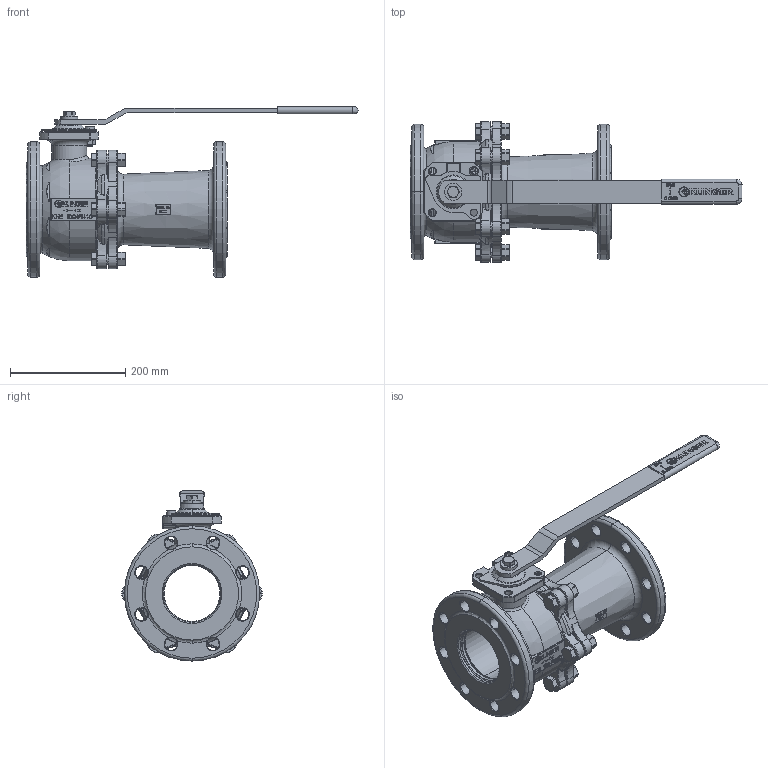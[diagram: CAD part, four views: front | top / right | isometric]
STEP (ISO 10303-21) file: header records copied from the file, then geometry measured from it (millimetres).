
FILE_DESCRIPTION((''),'2;1');
FILE_NAME('KHEFK100VFL100P040PKK','2015-08-10T',('mahrhauserh'),('RAND'),'PRO/ENGINEER BY PARAMETRIC TECHNOLOGY CORPORATION, 2013410','PRO/ENGINEER BY PARAMETRIC TECHNOLOGY CORPORATION, 2013410','');
FILE_SCHEMA(('CONFIG_CONTROL_DESIGN'));
Products named in the file (1): KHEFK100VFL100P040PKK
Bounding box: 577 x 244 x 295.75 mm (x, y, z)
Volume: 5021756.3 mm3; surface area: 811819.1 mm2
Topology: 1 solids, 1 shells, 3306 faces, 8744 edges, 5580 vertices
Faces by surface type: plane 2053, cylinder 459, torus 329, cone 254, bspline 197, sphere 14
Entity records: 136186 total; most frequent: CARTESIAN_POINT 54648, ORIENTED_EDGE 17484, DIRECTION 16336, EDGE_CURVE 8742, VECTOR 5882, LINE 5882, VERTEX_POINT 5580, AXIS2_PLACEMENT_3D 5227
